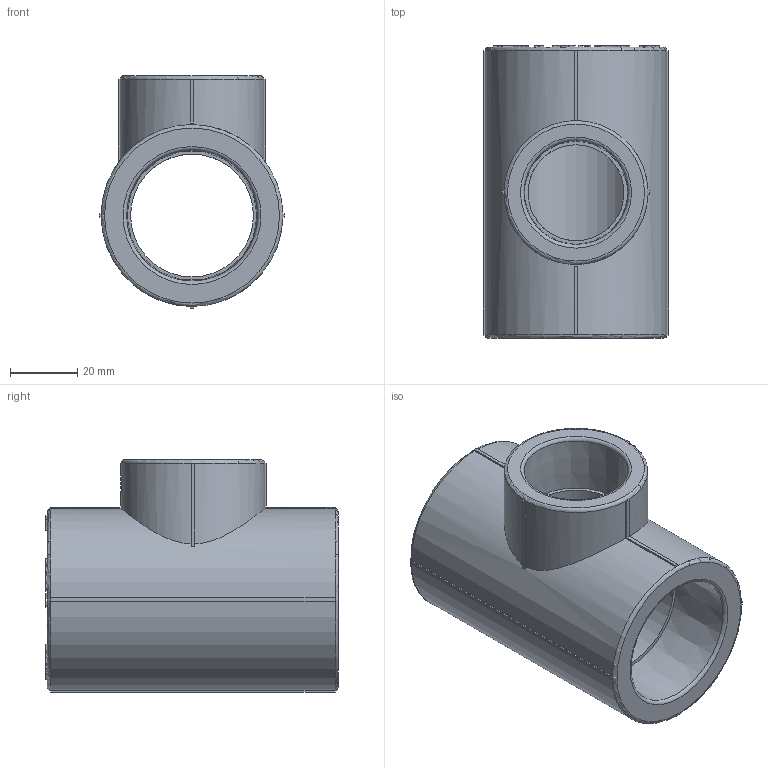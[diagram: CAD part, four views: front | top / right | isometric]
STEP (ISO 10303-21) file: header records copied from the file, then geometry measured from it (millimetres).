
FILE_DESCRIPTION(('STEP AP203'), '1');
FILE_NAME('ÂÐ.752241.062 - VTp.735.0.040032040', '', ('UNSPECIFIED'), ('UNSPECIFIED'), 'C3D Converter', 'C3D Toolkit', '');
FILE_SCHEMA(('CONFIG_CONTROL_DESIGN'));
Length unit declared in the file: millimetre
Products named in the file (1): ВР.752241.062
Bounding box: 55 x 87 x 69 mm (x, y, z)
Volume: 108354.8 mm3; surface area: 31111.7 mm2
Topology: 1 solids, 1 shells, 1126 faces, 3163 edges, 2100 vertices
Faces by surface type: extrusion 664, plane 418, cylinder 35, torus 6, cone 3
Full cylindrical faces by diameter (mm): 6 x1, 28.5 x1, 36.5 x1
Entity records: 41563 total; most frequent: CARTESIAN_POINT 15969, ORIENTED_EDGE 6302, DIRECTION 3161, EDGE_CURVE 3151, VECTOR 2145, VERTEX_POINT 2100, B_SPLINE_CURVE_WITH_KNOTS 1999, LINE 1481
